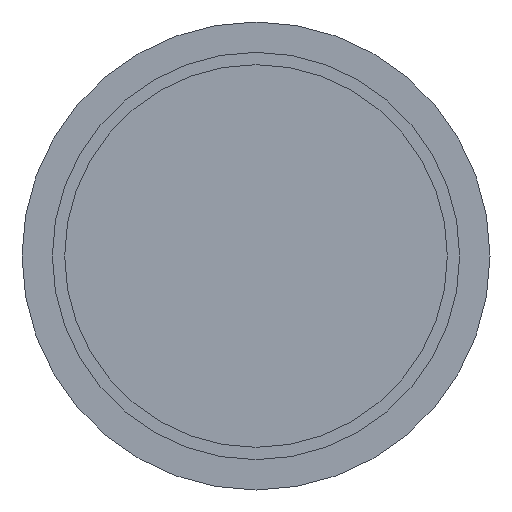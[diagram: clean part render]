
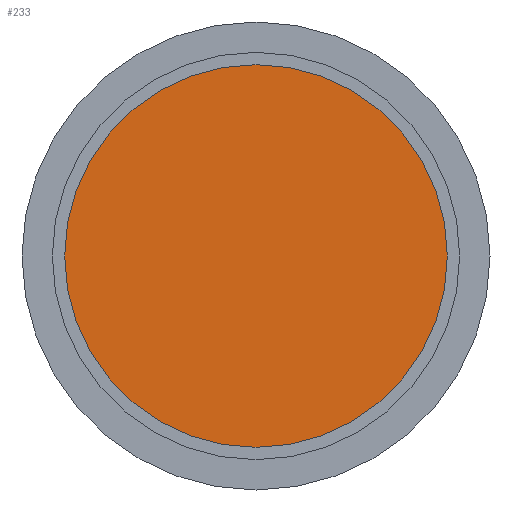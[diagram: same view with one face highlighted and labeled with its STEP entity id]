
A CAD part, left-side view. The second image highlights one B-rep face of the part: STEP entity #233.
In plain terms, the highlighted planar face has unit normal (-1, 0, 0).
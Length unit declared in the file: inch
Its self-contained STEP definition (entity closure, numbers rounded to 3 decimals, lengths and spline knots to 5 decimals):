
#19=PLANE('',#285);
#41=FACE_OUTER_BOUND('',#54,.T.);
#54=EDGE_LOOP('',(#188,#189));
#81=CIRCLE('',#286,0.971);
#82=CIRCLE('',#287,0.971);
#106=VERTEX_POINT('',#432);
#107=VERTEX_POINT('',#433);
#136=EDGE_CURVE('',#106,#107,#81,.T.);
#137=EDGE_CURVE('',#107,#106,#82,.T.);
#188=ORIENTED_EDGE('',*,*,#136,.F.);
#189=ORIENTED_EDGE('',*,*,#137,.F.);
#233=ADVANCED_FACE('',(#41),#19,.T.);
#285=AXIS2_PLACEMENT_3D('',#431,#356,#357);
#286=AXIS2_PLACEMENT_3D('',#434,#358,#359);
#287=AXIS2_PLACEMENT_3D('',#435,#360,#361);
#356=DIRECTION('center_axis',(-1.,0.,0.));
#357=DIRECTION('ref_axis',(0.,0.,1.));
#358=DIRECTION('center_axis',(1.,0.,0.));
#359=DIRECTION('ref_axis',(0.,1.,0.));
#360=DIRECTION('center_axis',(1.,0.,0.));
#361=DIRECTION('ref_axis',(0.,1.,0.));
#431=CARTESIAN_POINT('Origin',(0.846,0.4855,0.));
#432=CARTESIAN_POINT('',(0.846,0.971,0.));
#433=CARTESIAN_POINT('',(0.846,-0.971,0.));
#434=CARTESIAN_POINT('Origin',(0.846,0.,0.));
#435=CARTESIAN_POINT('Origin',(0.846,0.,0.));
